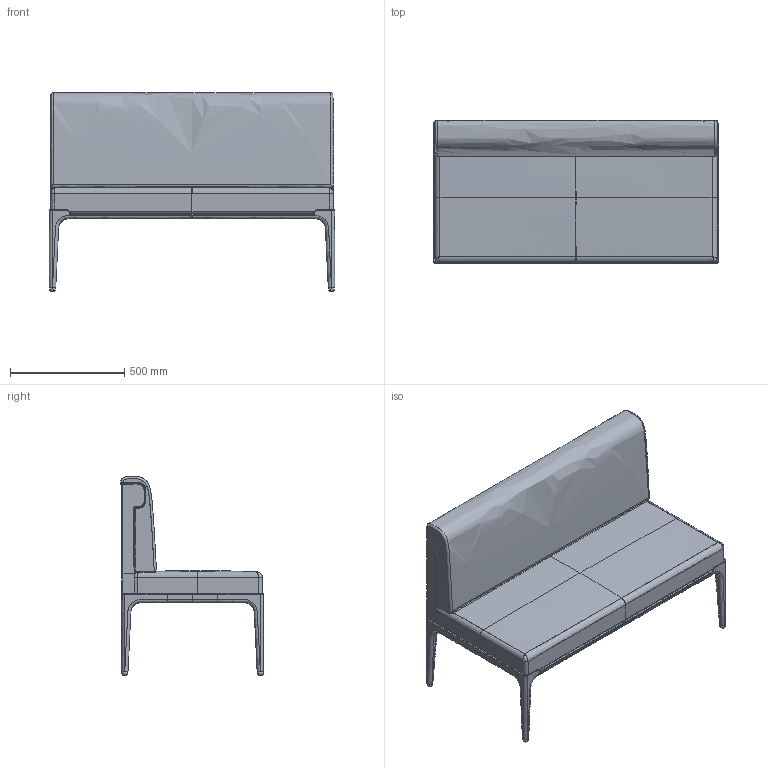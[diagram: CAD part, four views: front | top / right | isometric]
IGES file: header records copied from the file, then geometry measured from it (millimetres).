
Global section: file name: C:\Users\market02\Desktop\RYAN\3D\Frame\Canap; native system: Rhinoceros ( Dec 14 2021 ); preprocessor: Trout Lake IGES 012 Dec 14 2021; date: 220722.151604; units: millimetre
Bounding box: 1250 x 626.86 x 871.24 mm (x, y, z)
Surface area: 6323302.9 mm2 (no closed solid volume)
Topology: 0 solids, 0 shells, 304 faces, 2616 edges, 2531 vertices
Faces by surface type: bspline 304
